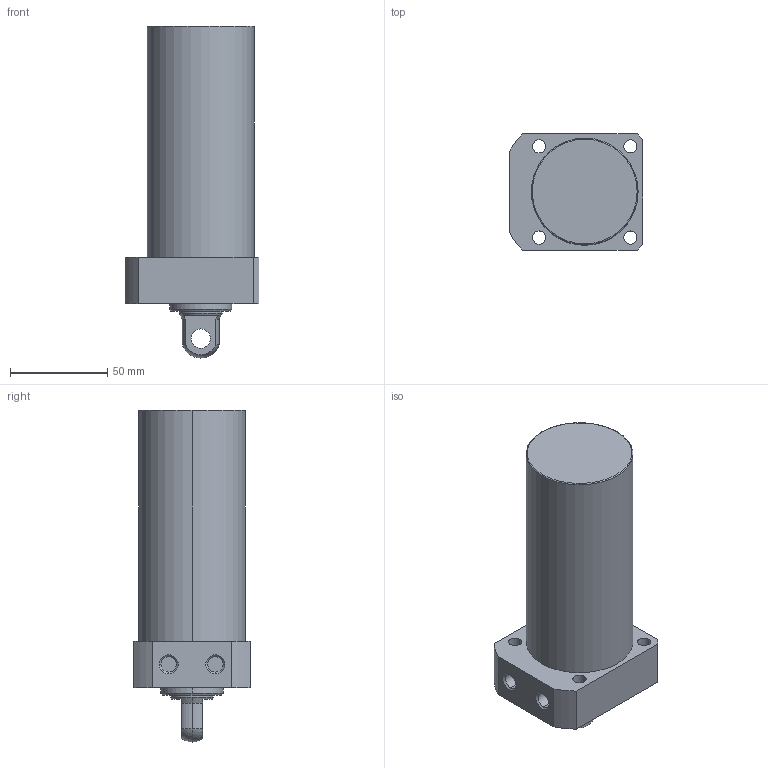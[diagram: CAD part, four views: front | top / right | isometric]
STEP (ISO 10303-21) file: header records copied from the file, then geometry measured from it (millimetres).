
FILE_DESCRIPTION (( 'STEP AP203' ), '1' );
FILE_NAME ('CLLR055-CP-090.STEP', '2017-05-18T06:38:36', ( '' ), ( '' ), 'SwSTEP 2.0', 'SolidWorks 2015', '' );
FILE_SCHEMA (( 'CONFIG_CONTROL_DESIGN' ));
Length unit declared in the file: millimetre
Products named in the file (1): CLLR055-CP-090
Bounding box: 69 x 60 x 171 mm (x, y, z)
Volume: 382247.6 mm3; surface area: 38779.8 mm2
Topology: 1 solids, 1 shells, 59 faces, 139 edges, 89 vertices
Faces by surface type: cylinder 29, plane 18, cone 8, torus 2, sphere 2
Entity records: 1822 total; most frequent: DIRECTION 331, CARTESIAN_POINT 300, ORIENTED_EDGE 278, EDGE_CURVE 139, AXIS2_PLACEMENT_3D 136, VERTEX_POINT 89, EDGE_LOOP 76, CIRCLE 76
